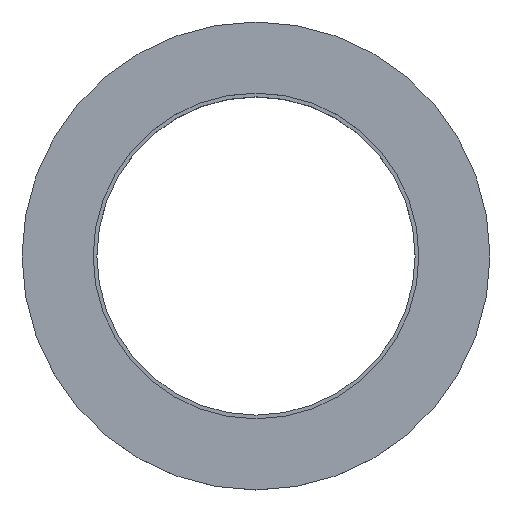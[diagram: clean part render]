
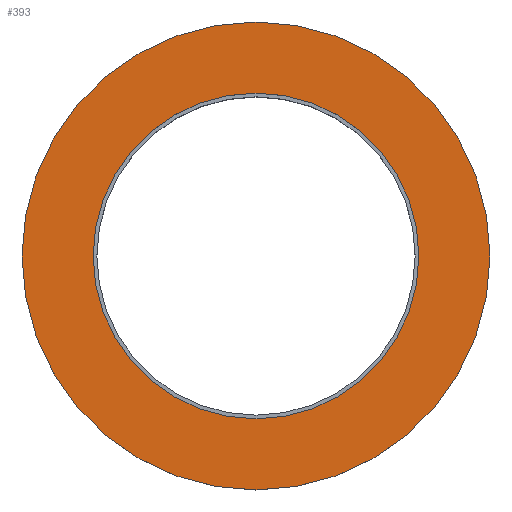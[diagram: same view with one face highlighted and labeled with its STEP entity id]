
A CAD part, top view. The second image highlights one B-rep face of the part: STEP entity #393.
In plain terms, the highlighted planar face has unit normal (0, 0, 1).
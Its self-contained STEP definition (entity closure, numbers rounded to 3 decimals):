
#4 = DIRECTION ( 'NONE',  ( 1., 0., 0. ) ) ;
#5 = EDGE_CURVE ( 'NONE', #117, #249, #412, .T. ) ;
#8 = DIRECTION ( 'NONE',  ( 1., 0., 0. ) ) ;
#25 = FACE_OUTER_BOUND ( 'NONE', #62, .T. ) ;
#27 = EDGE_CURVE ( 'NONE', #249, #117, #222, .T. ) ;
#33 = AXIS2_PLACEMENT_3D ( 'NONE', #355, #274, #8 ) ;
#40 = DIRECTION ( 'NONE',  ( 0., 0., 1. ) ) ;
#55 = DIRECTION ( 'NONE',  ( 1., 0., 0. ) ) ;
#62 = EDGE_LOOP ( 'NONE', ( #201, #338 ) ) ;
#64 = CARTESIAN_POINT ( 'NONE',  ( 26.1, 0., 0. ) ) ;
#71 = EDGE_LOOP ( 'NONE', ( #189, #434 ) ) ;
#78 = AXIS2_PLACEMENT_3D ( 'NONE', #485, #335, #55 ) ;
#92 = CIRCLE ( 'NONE', #78, 26.1 ) ;
#109 = VERTEX_POINT ( 'NONE', #275 ) ;
#112 = DIRECTION ( 'NONE',  ( 0., 0., 1. ) ) ;
#117 = VERTEX_POINT ( 'NONE', #238 ) ;
#118 = FACE_BOUND ( 'NONE', #71, .T. ) ;
#123 = CARTESIAN_POINT ( 'NONE',  ( 0., 0., 0. ) ) ;
#140 = CARTESIAN_POINT ( 'NONE',  ( 37.5, 0., 0. ) ) ;
#141 = EDGE_CURVE ( 'NONE', #378, #109, #203, .T. ) ;
#189 = ORIENTED_EDGE ( 'NONE', *, *, #141, .F. ) ;
#198 = CARTESIAN_POINT ( 'NONE',  ( 0., 0., 0. ) ) ;
#201 = ORIENTED_EDGE ( 'NONE', *, *, #27, .T. ) ;
#203 = CIRCLE ( 'NONE', #313, 26.1 ) ;
#211 = AXIS2_PLACEMENT_3D ( 'NONE', #123, #40, #4 ) ;
#222 = CIRCLE ( 'NONE', #33, 37.5 ) ;
#238 = CARTESIAN_POINT ( 'NONE',  ( -37.5, 0., 0. ) ) ;
#249 = VERTEX_POINT ( 'NONE', #140 ) ;
#257 = EDGE_CURVE ( 'NONE', #109, #378, #92, .T. ) ;
#274 = DIRECTION ( 'NONE',  ( 0., 0., 1. ) ) ;
#275 = CARTESIAN_POINT ( 'NONE',  ( -26.1, 0., 0. ) ) ;
#313 = AXIS2_PLACEMENT_3D ( 'NONE', #198, #441, #478 ) ;
#335 = DIRECTION ( 'NONE',  ( 0., 0., 1. ) ) ;
#338 = ORIENTED_EDGE ( 'NONE', *, *, #5, .T. ) ;
#343 = PLANE ( 'NONE',  #476 ) ;
#345 = CARTESIAN_POINT ( 'NONE',  ( 0., 37.5, 0. ) ) ;
#355 = CARTESIAN_POINT ( 'NONE',  ( 0., 0., 0. ) ) ;
#378 = VERTEX_POINT ( 'NONE', #64 ) ;
#382 = DIRECTION ( 'NONE',  ( 1., 0., 0. ) ) ;
#393 = ADVANCED_FACE ( 'NONE', ( #25, #118 ), #343, .T. ) ;
#412 = CIRCLE ( 'NONE', #211, 37.5 ) ;
#434 = ORIENTED_EDGE ( 'NONE', *, *, #257, .F. ) ;
#441 = DIRECTION ( 'NONE',  ( 0., 0., 1. ) ) ;
#476 = AXIS2_PLACEMENT_3D ( 'NONE', #345, #112, #382 ) ;
#478 = DIRECTION ( 'NONE',  ( 1., 0., 0. ) ) ;
#485 = CARTESIAN_POINT ( 'NONE',  ( 0., 0., 0. ) ) ;
